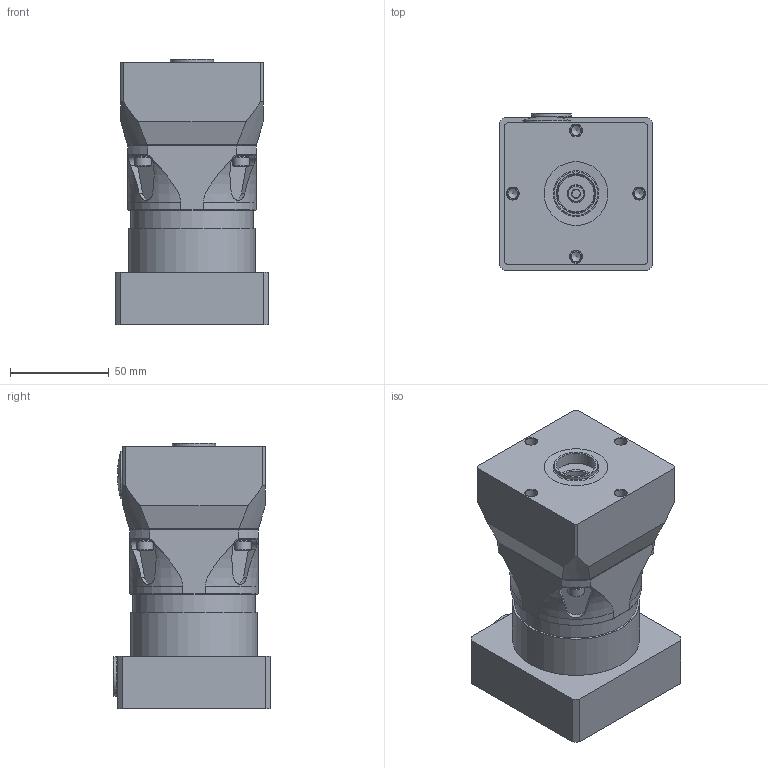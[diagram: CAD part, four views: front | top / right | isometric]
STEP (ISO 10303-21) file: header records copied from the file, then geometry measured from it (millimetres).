
FILE_DESCRIPTION (( 'STEP AP214' ), '1' );
FILE_NAME ('EPL-U-064-M1814-H1298 (14mm).STEP', '2024-10-25T16:09:01', ( '' ), ( '' ), 'SwSTEP 2.0', 'SolidWorks 2020', '' );
FILE_SCHEMA (( 'AUTOMOTIVE_DESIGN' ));
Length unit declared in the file: millimetre
Products named in the file (13): 51040002 14mm Plug; 4505XXXX M5 SHCS_M5 X 20; 51020004 M20 Threaded Plug; EPL-U-064-M1814-H1298 (14mm); 55012113 EPL-U-064 to Macron 40-25 Adapter; M1814_EPL-064; 23030134 EPL-U-064 to Macron 40-25 0.7500in Shaft; H1298_EPL-U-064; 47050010 BVL M5 5x9x0.60mm ST; EPL-U-064_EPL-U-064-I 14mm; 4505XXXX M5 SHCS_M5 X 16; 4505XXXX M5 SHCS_M5 X 25                                            ; 077-A01
Assembly tree (26 placements, depth 3):
  EPL-U-064-M1814-H1298 (14mm)
    EPL-U-064_EPL-U-064-I 14mm
    M1814_EPL-064
      077-A01
      51040002 14mm Plug
    H1298_EPL-U-064
      55012113 EPL-U-064 to Macron 40-25 Adapter
      4505XXXX M5 SHCS_M5 X 20
      47050010 BVL M5 5x9x0.60mm ST  x5
      4505XXXX M5 SHCS_M5 X 16  x4
      23030134 EPL-U-064 to Macron 40-25 0.7500in Shaft
      51020004 M20 Threaded Plug
    4505XXXX M5 SHCS_M5 X 25                                              x4
    47050010 BVL M5 5x9x0.60mm ST  x4
Bounding box: 77.4 x 79.4 x 134.06 mm (x, y, z)
Volume: 388200.3 mm3; surface area: 168778.5 mm2
Topology: 64 solids, 66 shells, 3296 faces, 8971 edges, 5846 vertices
Faces by surface type: cone 1422, bspline 1059, plane 451, cylinder 336, torus 27, sphere 1
Full cylindrical faces by diameter (mm): 2 x4, 2.5 x3, 2.8 x1, 3.3 x8, 3.7 x16, 4 x29, 4.2 x12, 4.45 x8, 4.5 x1, 5 x28, 5.49 x4, 5.5 x5, 6 x12, 7 x6, 7.5 x4, 8 x2, 8.5 x10, 9 x7, 11 x1, 12 x2, 13 x1, 14 x3, 14.4 x1, 15.192 x1, 16.5 x1, 18 x1, 18.5 x1, 18.52 x1, 19.05 x1, 19.3 x1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
Entity records: 43496 total; most frequent: CARTESIAN_POINT 15759, DIRECTION 5233, ORIENTED_EDGE 5138, EDGE_CURVE 2569, AXIS2_PLACEMENT_3D 2325, EDGE_LOOP 1926, VERTEX_POINT 1845, FACE_OUTER_BOUND 1542
